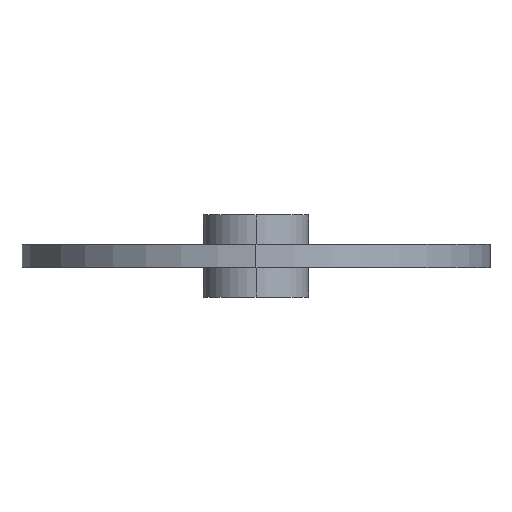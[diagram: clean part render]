
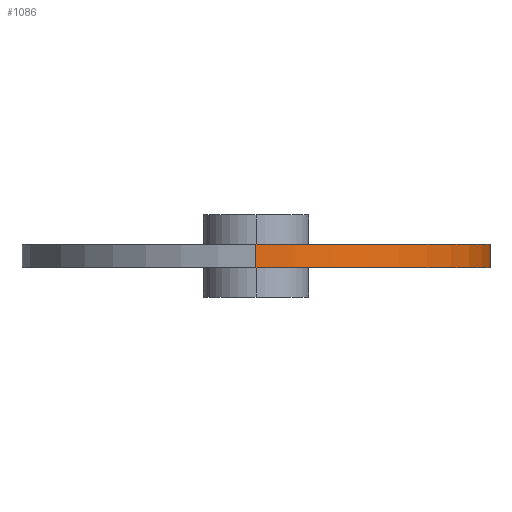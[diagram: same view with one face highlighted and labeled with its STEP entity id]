
A CAD part, left-side view. The second image highlights one B-rep face of the part: STEP entity #1086.
In plain terms, the highlighted cylindrical face has radius 40 mm (diameter 80 mm), a partial arc.
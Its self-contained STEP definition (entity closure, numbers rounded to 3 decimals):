
#7 = ORIENTED_EDGE ( 'NONE', *, *, #1025, .T. ) ;
#36 = ORIENTED_EDGE ( 'NONE', *, *, #1123, .F. ) ;
#45 = CARTESIAN_POINT ( 'NONE',  ( 0., 0., 4. ) ) ;
#63 = VECTOR ( 'NONE', #205, 1000. ) ;
#77 = CARTESIAN_POINT ( 'NONE',  ( 9., -38.974, 0. ) ) ;
#95 = DIRECTION ( 'NONE',  ( 1., 0., 0. ) ) ;
#109 = EDGE_CURVE ( 'NONE', #638, #470, #764, .T. ) ;
#130 = CARTESIAN_POINT ( 'NONE',  ( 9., -38.974, 4. ) ) ;
#192 = VECTOR ( 'NONE', #727, 1000. ) ;
#205 = DIRECTION ( 'NONE',  ( 0., 0., -1. ) ) ;
#229 = CIRCLE ( 'NONE', #861, 40. ) ;
#298 = CARTESIAN_POINT ( 'NONE',  ( 0., 0., 4. ) ) ;
#358 = CYLINDRICAL_SURFACE ( 'NONE', #612, 40. ) ;
#409 = CARTESIAN_POINT ( 'NONE',  ( 9., -38.974, 4. ) ) ;
#470 = VERTEX_POINT ( 'NONE', #130 ) ;
#479 = VERTEX_POINT ( 'NONE', #508 ) ;
#498 = DIRECTION ( 'NONE',  ( 1., 0., 0. ) ) ;
#501 = VERTEX_POINT ( 'NONE', #77 ) ;
#508 = CARTESIAN_POINT ( 'NONE',  ( -40., 0., 0. ) ) ;
#612 = AXIS2_PLACEMENT_3D ( 'NONE', #298, #933, #949 ) ;
#638 = VERTEX_POINT ( 'NONE', #1168 ) ;
#655 = CARTESIAN_POINT ( 'NONE',  ( -40., 0., 4. ) ) ;
#663 = LINE ( 'NONE', #409, #63 ) ;
#694 = DIRECTION ( 'NONE',  ( 0., 0., 1. ) ) ;
#727 = DIRECTION ( 'NONE',  ( 0., 0., -1. ) ) ;
#764 = CIRCLE ( 'NONE', #1032, 40. ) ;
#771 = EDGE_LOOP ( 'NONE', ( #1062, #897, #7, #36 ) ) ;
#822 = LINE ( 'NONE', #655, #192 ) ;
#861 = AXIS2_PLACEMENT_3D ( 'NONE', #1003, #906, #95 ) ;
#897 = ORIENTED_EDGE ( 'NONE', *, *, #1034, .T. ) ;
#906 = DIRECTION ( 'NONE',  ( 0., 0., 1. ) ) ;
#933 = DIRECTION ( 'NONE',  ( 0., 0., -1. ) ) ;
#949 = DIRECTION ( 'NONE',  ( -1., 0., 0. ) ) ;
#1003 = CARTESIAN_POINT ( 'NONE',  ( 0., 0., 0. ) ) ;
#1025 = EDGE_CURVE ( 'NONE', #479, #501, #229, .T. ) ;
#1032 = AXIS2_PLACEMENT_3D ( 'NONE', #45, #694, #498 ) ;
#1034 = EDGE_CURVE ( 'NONE', #638, #479, #822, .T. ) ;
#1062 = ORIENTED_EDGE ( 'NONE', *, *, #109, .F. ) ;
#1086 = ADVANCED_FACE ( 'NONE', ( #1175 ), #358, .T. ) ;
#1123 = EDGE_CURVE ( 'NONE', #470, #501, #663, .T. ) ;
#1168 = CARTESIAN_POINT ( 'NONE',  ( -40., 0., 4. ) ) ;
#1175 = FACE_OUTER_BOUND ( 'NONE', #771, .T. ) ;
